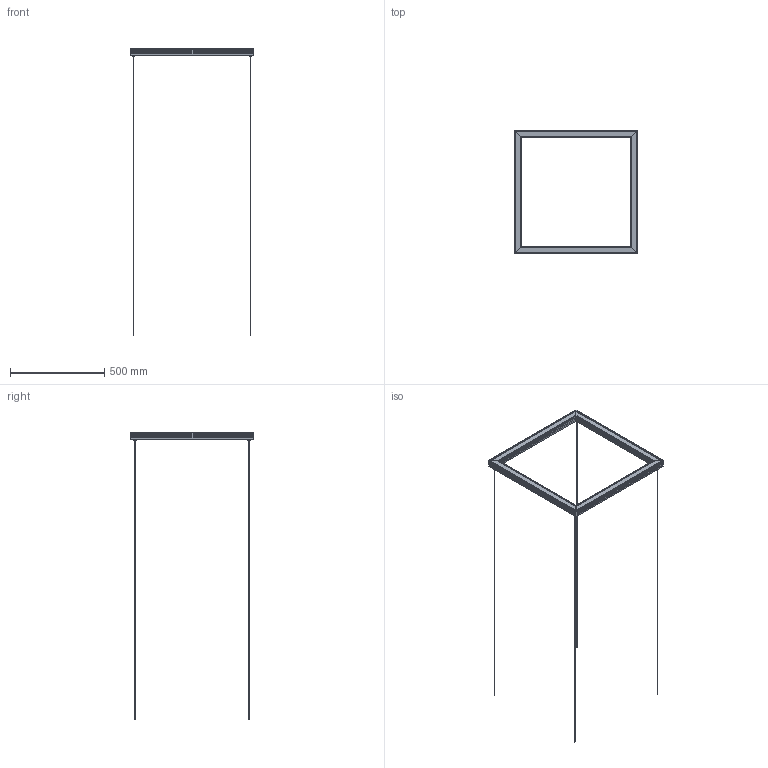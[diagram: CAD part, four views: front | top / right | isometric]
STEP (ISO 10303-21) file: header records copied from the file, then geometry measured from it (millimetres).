
FILE_DESCRIPTION(/* description */ ('Unknown'),/* implementation_level */ '2;1');
FILE_NAME(/* name */ 'TOUR Q 25.8',/* time_stamp */ '2023-01-24T08:06:46-05:00',/* author */ ('Unknown'),/* organization */ ('Unknown'),/* preprocessor_version */ 'ST-DEVELOPER v18.1',/* originating_system */ 'Solid Edge',/* authorisation */ 'Unknown');
FILE_SCHEMA (('AUTOMOTIVE_DESIGN {1 0 10303 214 3 1 1}'));
Length unit declared in the file: millimetre
Products named in the file (1): TOUR Q 25.8
Bounding box: 655 x 655 x 1525 mm (x, y, z)
Volume: 1065749.8 mm3; surface area: 967399.2 mm2
Topology: 17 solids, 17 shells, 1122 faces, 3240 edges, 2156 vertices
Faces by surface type: plane 650, cylinder 428, cone 28, bspline 12, torus 4
Full cylindrical faces by diameter (mm): 2.3 x4, 3 x4, 4.134 x4, 8.917 x4, 10 x4, 12.4 x4
Entity records: 41903 total; most frequent: CARTESIAN_POINT 8075, ORIENTED_EDGE 6312, DIRECTION 5946, EDGE_CURVE 3156, VERTEX_POINT 2132, AXIS2_PLACEMENT_3D 1983, LINE 1980, VECTOR 1980
